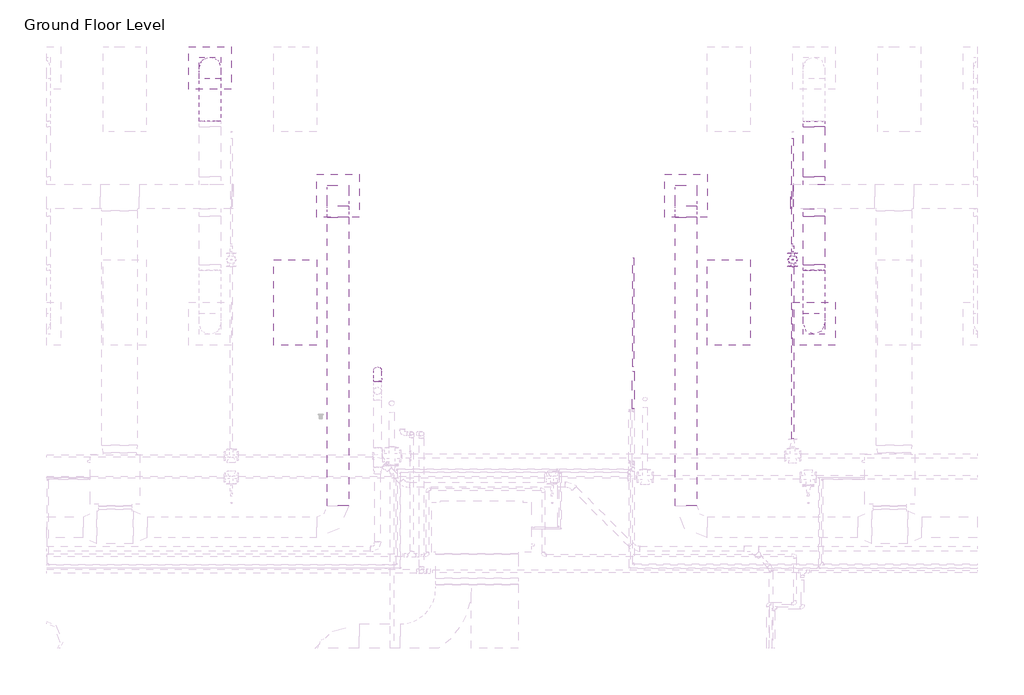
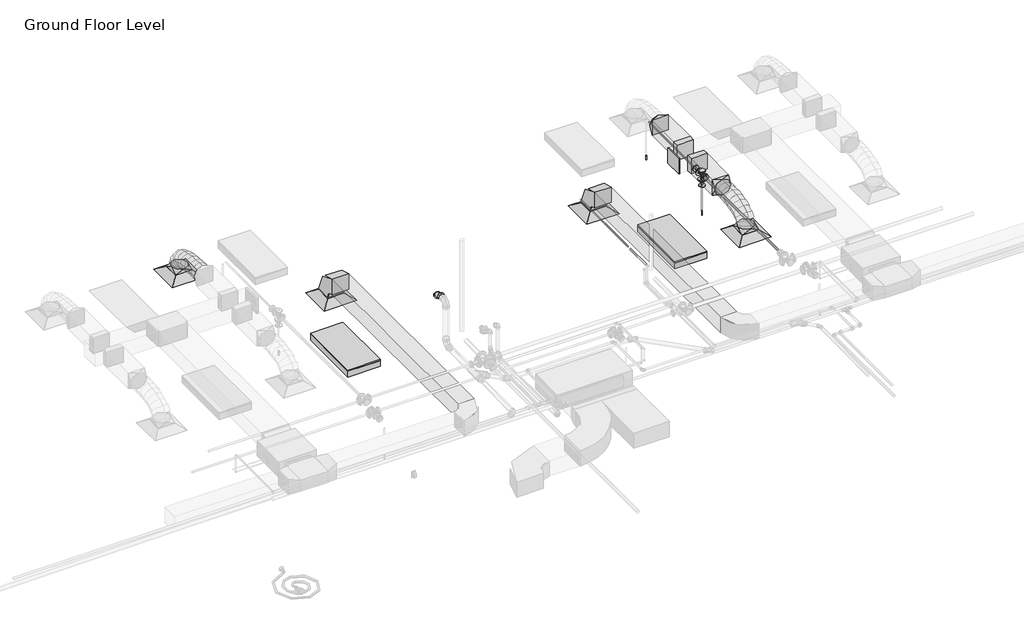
# One storey, part 58 of 74: 9 duct fittings, 8 duct segments, 6 pipe segments, 4 air terminals, 4 pipe fittings, 2 fire suppression terminals, 2 light fixtures.
"""IFC4 building model written with IfcOpenShell, lengths in millimetres."""

from ifc_helpers import new_model, si_unit, point, frame, frame_2d, origin, place, context, project, spatial, polyline, circle_curve, ellipse_curve, trimmed, segment, composite_curve, outline, extrude, transform, mapped, element, save
from ifc_brep_helpers import plane_surface, cylinder_surface, advanced_brep
from components import m_return_diffuser_600_x_600_face_300_x_300_connection_ff221211, m_rectangular_elbow_radius_1_w_618da153, m_rectangular_endcap_standard_eed78c44, m_rectangular_takeoff_standard_cb0ccb98, m_rectangular_takeoff_standard_2be5eba1, m_rectangular_to_round_transition_angle_45_degree_641efff0, m_sprinkler_dry_pendent_hosted_15_mm_dry_pendent_9bda8e11, m_troffer_light_parabolic_rectangular1_0600x1200mm_4_lamp_86473d4a, m_bend_pvc_sch_40_dwv_standard_97688ec5, m_reducer_flanged_cs_class_150_standard_d42b2106, m_tee_round_base_flanged_cs_class_150_standard_7e5987a1

model = new_model("IFC4")

# Units and contexts
model_context = context("Model", 3, world=origin())
ifc_project = project(units=[si_unit("LENGTHUNIT", "METRE", prefix="MILLI")], contexts=[model_context])

# Site, building, storey
site = spatial("IfcSite", under=ifc_project)
building = spatial("IfcBuilding", under=site)
storey = spatial("IfcBuildingStorey", under=building, Name="Ground Floor Level", Elevation=900.0)

# Air terminals
placement = place(None, origin())
m_return_diffuser_600_x_600_face_300_x_300_connection_shape = m_return_diffuser_600_x_600_face_300_x_300_connection_ff221211(model_context)
element("IfcAirTerminal", 1, ObjectType="M_Return Diffuser : 600 x 600 Face 300 x 300 Connection", at=placement, inside=storey, context=model_context, shape_type="MappedRepresentation", body=[
    mapped(m_return_diffuser_600_x_600_face_300_x_300_connection_shape, transform((-6737.2327605, 18735.2153534, 3650.0), x_axis=(1.0, 0.0, 0.0), y_axis=(0.0, 1.0, 0.0), z_axis=(0.0, 0.0, 1.0))),
])
element("IfcAirTerminal", 2, ObjectType="M_Return Diffuser : 600 x 600 Face 300 x 300 Connection", at=placement, inside=storey, context=model_context, shape_type="MappedRepresentation", body=[
    mapped(m_return_diffuser_600_x_600_face_300_x_300_connection_shape, transform((-1837.2327605, 18735.2153534, 3650.0), x_axis=(1.0, 0.0, 0.0), y_axis=(0.0, 1.0, 0.0), z_axis=(0.0, 0.0, 1.0))),
])
element("IfcAirTerminal", 3, ObjectType="M_Supply Diffuser : 600 x 600 Face 300 x 300 Connection", at=placement, inside=storey, context=model_context, shape_type="MappedRepresentation", body=[
    mapped(m_return_diffuser_600_x_600_face_300_x_300_connection_shape, transform((-8537.2327605, 20535.2153534, 3650.0), x_axis=(1.0, 0.0, 0.0), y_axis=(0.0, 1.0, 0.0), z_axis=(0.0, 0.0, 1.0))),
])
element("IfcAirTerminal", 4, ObjectType="M_Supply Diffuser : 600 x 600 Face 300 x 300 Connection", at=placement, inside=storey, context=model_context, shape_type="MappedRepresentation", body=[
    mapped(m_return_diffuser_600_x_600_face_300_x_300_connection_shape, transform((-37.2327605, 16935.2153534, 3650.0), x_axis=(1.0, 0.0, 0.0), y_axis=(0.0, 1.0, 0.0), z_axis=(0.0, 0.0, 1.0))),
])

# Duct fittings
m_rectangular_elbow_radius_1_w_shape = m_rectangular_elbow_radius_1_w_618da153(model_context)
element("IfcDuctFitting", 5, ObjectType="M_Rectangular Elbow - Radius : 1 W", at=placement, inside=storey, context=model_context, shape_type="MappedRepresentation", body=[
    mapped(m_rectangular_elbow_radius_1_w_shape, transform((-6737.2327605, 18735.2153534, 4075.2872564), x_axis=(0.0, 0.0, 1.0), y_axis=(0.0, -1.0, 0.0), z_axis=(1.0, 0.0, 0.0))),
])
element("IfcDuctFitting", 6, ObjectType="M_Rectangular Elbow - Radius : 1 W", at=placement, inside=storey, context=model_context, shape_type="MappedRepresentation", body=[
    mapped(m_rectangular_elbow_radius_1_w_shape, transform((-1837.2327605, 18735.2153534, 4075.2872564), x_axis=(0.0, 0.0, 1.0), y_axis=(0.0, -1.0, 0.0), z_axis=(1.0, 0.0, 0.0))),
])
m_rectangular_endcap_standard_shape = m_rectangular_endcap_standard_eed78c44(model_context)
element("IfcDuctFitting", 7, ObjectType="M_Rectangular Endcap : Standard", at=placement, inside=storey, context=model_context, shape_type="MappedRepresentation", body=[
    mapped(m_rectangular_endcap_standard_shape, transform((-337.2326293, 18724.6783949, 4099.9983101), x_axis=(-0.9999999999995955, 0.0, -8.994654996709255e-07), y_axis=(0.0, -1.0000000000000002, 0.0), z_axis=(-8.994654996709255e-07, 0.0, 0.9999999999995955))),
])
m_rectangular_takeoff_standard_shape = m_rectangular_takeoff_standard_cb0ccb98(model_context)
element("IfcDuctFitting", 8, ObjectType="M_Rectangular Takeoff : Standard", at=placement, inside=storey, context=model_context, shape_type="MappedRepresentation", body=[
    mapped(m_rectangular_takeoff_standard_shape, transform((-37.2327605, 18549.6783949, 4099.9985799), x_axis=(0.0, -1.0, 0.0), y_axis=(-1.0, 0.0, 0.0), z_axis=(0.0, 0.0, -1.0))),
])
m_rectangular_takeoff_standard_2_shape = m_rectangular_takeoff_standard_2be5eba1(model_context)
element("IfcDuctFitting", 9, ObjectType="M_Rectangular Takeoff : Standard", at=placement, inside=storey, context=model_context, shape_type="MappedRepresentation", body=[
    mapped(m_rectangular_takeoff_standard_2_shape, transform((-37.2327605, 18899.6783949, 4099.9985799), x_axis=(0.0, 1.0, 0.0), y_axis=(1.0, 0.0, 0.0), z_axis=(0.0, 0.0, -1.0))),
])
m_rectangular_to_round_transition_angle_45_degree_shape = m_rectangular_to_round_transition_angle_45_degree_641efff0(model_context)
element("IfcDuctFitting", 10, ObjectType="M_Rectangular to Round Transition - Angle : 45 Degree", at=placement, inside=storey, context=model_context, shape_type="MappedRepresentation", body=[
    mapped(m_rectangular_to_round_transition_angle_45_degree_shape, transform((-8537.2327605, 20535.2153534, 3751.6), x_axis=(0.0, 0.0, 1.0), y_axis=(-1.0, 0.0, 0.0), z_axis=(0.0, -1.0, 0.0))),
])
element("IfcDuctFitting", 11, ObjectType="M_Rectangular to Round Transition - Angle : 45 Degree", at=placement, inside=storey, context=model_context, shape_type="MappedRepresentation", body=[
    mapped(m_rectangular_to_round_transition_angle_45_degree_shape, transform((-37.2327605, 19707.878002, 4099.9985799), x_axis=(0.0, 1.0, 0.0), y_axis=(-1.0, 0.0, 0.0), z_axis=(0.0, 0.0, 1.0))),
])
element("IfcDuctFitting", 12, ObjectType="M_Rectangular to Round Transition - Angle : 45 Degree", at=placement, inside=storey, context=model_context, shape_type="MappedRepresentation", body=[
    mapped(m_rectangular_to_round_transition_angle_45_degree_shape, transform((-37.2327605, 16935.2153534, 3751.6), x_axis=(0.0, 0.0, 1.0), y_axis=(-1.0, 0.0, 0.0), z_axis=(0.0, -1.0, 0.0))),
])
element("IfcDuctFitting", 13, ObjectType="M_Rectangular to Round Transition - Angle : 45 Degree", at=placement, inside=storey, context=model_context, shape_type="MappedRepresentation", body=[
    mapped(m_rectangular_to_round_transition_angle_45_degree_shape, transform((-37.2327605, 17762.5527048, 4099.9985799), x_axis=(0.0, -1.0, 0.0), y_axis=(1.0, 0.0, 0.0), z_axis=(0.0, 0.0, 1.0))),
])

# Duct segments
element("IfcDuctSegment", 14, ObjectType="Flex - Round", at=placement, inside=storey, context=model_context, shape_type="AdvancedBrep", body=[
    advanced_brep(
    [(-8387.2327605, 20535.2153534, 3826.6), (-8537.2327605, 20385.2153534, 3826.6), (-8687.2327605, 20535.2153534, 3826.6), (-8537.2327605, 20685.2153534, 3826.6), (-8387.2327605, 20535.2153534, 3857.937778), (-8537.2327605, 20385.2153534, 3832.2944744), (-8687.2327605, 20535.2153534, 3857.937778), (-8537.2327605, 20685.2153534, 3883.5810816), (-8387.2327605, 20518.1993769, 3906.2506017), (-8537.2327605, 20384.4614978, 3834.4348684), (-8687.2327605, 20518.1993769, 3906.2506017), (-8537.2327605, 20651.937256, 3978.0663351), (-8387.2327605, 20471.0153769, 3968.7112406), (-8537.2327605, 20366.8097489, 3857.8016772), (-8687.2327605, 20471.0153769, 3968.7112406), (-8537.2327605, 20575.2210049, 4079.6208039), (-8387.2327605, 20399.4592477, 4016.0697935), (-8537.2327605, 20330.5256195, 3881.8158865), (-8687.2327605, 20399.4592477, 4016.0697935), (-8537.2327605, 20468.3928758, 4150.3237004), (-8387.2327605, 20309.3268835, 4050.4141374), (-8537.2327605, 20265.7665876, 3906.4918893), (-8687.2327605, 20309.3268835, 4050.4141374), (-8537.2327605, 20352.8871794, 4194.3363855), (-8387.2327605, 20206.4141786, 4073.8321493), (-8537.2327605, 20179.8536975, 3926.0415559), (-8687.2327605, 20206.4141786, 4073.8321493), (-8537.2327605, 20232.9746597, 4221.6227426), (-8387.2327605, 20096.5170273, 4088.411706), (-8537.2327605, 20081.3665099, 3939.1074046), (-8687.2327605, 20096.5170273, 4088.411706), (-8537.2327605, 20111.6675446, 4237.7160075), (-8387.2327605, 19985.4313238, 4096.2406846), (-8537.2327605, 19977.9262951, 3946.3975526), (-8687.2327605, 19985.4313238, 4096.2406846), (-8537.2327605, 19992.9363525, 4246.0838166), (-8387.2327605, 19878.9529624, 4099.406962), (-8537.2327605, 19876.2616453, 3949.4206879), (-8687.2327605, 19878.9529624, 4099.406962), (-8537.2327605, 19881.6442795, 4249.3932362), (-8387.2327605, 19782.8778373, 4099.9984152), (-8537.2327605, 19783.8012427, 4249.9955729), (-8687.2327605, 19782.8778373, 4099.9984152), (-8537.2327605, 19781.9544319, 3950.0012575)],
    [
        (0, 1, circle_curve(frame((-8537.2327605, 20535.2153534, 3826.6), z_axis=(0.0, 0.0, -1.0), x_axis=(1.0, 0.0, 0.0)), 150.0)),
        (1, 2, circle_curve(frame((-8537.2327605, 20535.2153534, 3826.6), z_axis=(0.0, 0.0, -1.0), x_axis=(1.0, 0.0, 0.0)), 150.0)),
        (2, 3, circle_curve(frame((-8537.2327605, 20535.2153534, 3826.6), z_axis=(0.0, 0.0, -1.0), x_axis=(1.0, 0.0, 0.0)), 150.0)),
        (3, 0, circle_curve(frame((-8537.2327605, 20535.2153534, 3826.6), z_axis=(0.0, 0.0, -1.0), x_axis=(1.0, 0.0, 0.0)), 150.0)),
        (0, 4),
        (4, 5, ellipse_curve(frame((-8537.2327605, 20535.2153534, 3857.937778), z_axis=(0.0, 0.16851066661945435, -0.985699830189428), x_axis=(0.0, -0.985699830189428, -0.16851066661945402)), 152.1761447, 150.0)),
        (5, 1),
        (5, 6, ellipse_curve(frame((-8537.2327605, 20535.2153534, 3857.937778), z_axis=(0.0, 0.16851066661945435, -0.985699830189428), x_axis=(0.0, -0.985699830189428, -0.16851066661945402)), 152.1761447, 150.0)),
        (6, 2),
        (6, 7, ellipse_curve(frame((-8537.2327605, 20535.2153534, 3857.937778), z_axis=(0.0, 0.16851066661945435, -0.985699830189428), x_axis=(0.0, -0.985699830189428, -0.16851066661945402)), 152.1761447, 150.0)),
        (7, 3),
        (7, 4, ellipse_curve(frame((-8537.2327605, 20535.2153534, 3857.937778), z_axis=(0.0, 0.16851066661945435, -0.985699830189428), x_axis=(0.0, -0.985699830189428, -0.16851066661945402)), 152.1761447, 150.0)),
        (4, 8),
        (8, 9, ellipse_curve(frame((-8537.2327605, 20518.1993769, 3906.2506017), z_axis=(0.0, 0.4730936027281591, -0.8810121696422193), x_axis=(0.0, -0.8810121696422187, -0.4730936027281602)), 151.8002631, 150.0)),
        (9, 5),
        (9, 10, ellipse_curve(frame((-8537.2327605, 20518.1993769, 3906.2506017), z_axis=(0.0, 0.4730936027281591, -0.8810121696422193), x_axis=(0.0, -0.8810121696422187, -0.4730936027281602)), 151.8002631, 150.0)),
        (10, 6),
        (10, 11, ellipse_curve(frame((-8537.2327605, 20518.1993769, 3906.2506017), z_axis=(0.0, 0.4730936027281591, -0.8810121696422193), x_axis=(0.0, -0.8810121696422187, -0.4730936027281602)), 151.8002631, 150.0)),
        (11, 7),
        (11, 8, ellipse_curve(frame((-8537.2327605, 20518.1993769, 3906.2506017), z_axis=(0.0, 0.4730936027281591, -0.8810121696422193), x_axis=(0.0, -0.8810121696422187, -0.4730936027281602)), 151.8002631, 150.0)),
        (8, 12),
        (12, 13, ellipse_curve(frame((-8537.2327605, 20471.0153769, 3968.7112406), z_axis=(0.0, 0.7287895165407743, -0.6847377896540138), x_axis=(0.0, -0.6847377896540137, -0.7287895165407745)), 152.1832584, 150.0)),
        (13, 9),
        (13, 14, ellipse_curve(frame((-8537.2327605, 20471.0153769, 3968.7112406), z_axis=(0.0, 0.7287895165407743, -0.6847377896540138), x_axis=(0.0, -0.6847377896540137, -0.7287895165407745)), 152.1832584, 150.0)),
        (14, 10),
        (14, 15, ellipse_curve(frame((-8537.2327605, 20471.0153769, 3968.7112406), z_axis=(0.0, 0.7287895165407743, -0.6847377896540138), x_axis=(0.0, -0.6847377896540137, -0.7287895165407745)), 152.1832584, 150.0)),
        (15, 11),
        (15, 12, ellipse_curve(frame((-8537.2327605, 20471.0153769, 3968.7112406), z_axis=(0.0, 0.7287895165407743, -0.6847377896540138), x_axis=(0.0, -0.6847377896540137, -0.7287895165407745)), 152.1832584, 150.0)),
        (12, 16),
        (16, 17, ellipse_curve(frame((-8537.2327605, 20399.4592477, 4016.0697935), z_axis=(0.0, 0.8895873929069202, -0.4567650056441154), x_axis=(0.0, -0.4567650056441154, -0.8895873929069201)), 150.9170521, 150.0)),
        (17, 13),
        (17, 18, ellipse_curve(frame((-8537.2327605, 20399.4592477, 4016.0697935), z_axis=(0.0, 0.8895873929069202, -0.4567650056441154), x_axis=(0.0, -0.4567650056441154, -0.8895873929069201)), 150.9170521, 150.0)),
        (18, 14),
        (18, 19, ellipse_curve(frame((-8537.2327605, 20399.4592477, 4016.0697935), z_axis=(0.0, 0.8895873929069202, -0.4567650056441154), x_axis=(0.0, -0.4567650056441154, -0.8895873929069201)), 150.9170521, 150.0)),
        (19, 15),
        (19, 16, ellipse_curve(frame((-8537.2327605, 20399.4592477, 4016.0697935), z_axis=(0.0, 0.8895873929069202, -0.4567650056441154), x_axis=(0.0, -0.4567650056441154, -0.8895873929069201)), 150.9170521, 150.0)),
        (16, 20),
        (20, 21, ellipse_curve(frame((-8537.2327605, 20309.3268835, 4050.4141374), z_axis=(0.0, 0.9571212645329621, -0.2896875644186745), x_axis=(0.0, -0.28968756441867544, -0.9571212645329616)), 150.3699202, 150.0)),
        (21, 17),
        (21, 22, ellipse_curve(frame((-8537.2327605, 20309.3268835, 4050.4141374), z_axis=(0.0, 0.9571212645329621, -0.2896875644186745), x_axis=(0.0, -0.28968756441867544, -0.9571212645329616)), 150.3699202, 150.0)),
        (22, 18),
        (22, 23, ellipse_curve(frame((-8537.2327605, 20309.3268835, 4050.4141374), z_axis=(0.0, 0.9571212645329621, -0.2896875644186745), x_axis=(0.0, -0.28968756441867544, -0.9571212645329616)), 150.3699202, 150.0)),
        (23, 19),
        (23, 20, ellipse_curve(frame((-8537.2327605, 20309.3268835, 4050.4141374), z_axis=(0.0, 0.9571212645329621, -0.2896875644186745), x_axis=(0.0, -0.28968756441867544, -0.9571212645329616)), 150.3699202, 150.0)),
        (20, 24),
        (24, 25, ellipse_curve(frame((-8537.2327605, 20206.4141786, 4073.8321493), z_axis=(0.0, 0.9842318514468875, -0.17688318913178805), x_axis=(0.0, -0.17688318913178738, -0.9842318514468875)), 150.1583119, 150.0)),
        (25, 21),
        (25, 26, ellipse_curve(frame((-8537.2327605, 20206.4141786, 4073.8321493), z_axis=(0.0, 0.9842318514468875, -0.17688318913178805), x_axis=(0.0, -0.17688318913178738, -0.9842318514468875)), 150.1583119, 150.0)),
        (26, 22),
        (26, 27, ellipse_curve(frame((-8537.2327605, 20206.4141786, 4073.8321493), z_axis=(0.0, 0.9842318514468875, -0.17688318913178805), x_axis=(0.0, -0.17688318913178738, -0.9842318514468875)), 150.1583119, 150.0)),
        (27, 23),
        (27, 24, ellipse_curve(frame((-8537.2327605, 20206.4141786, 4073.8321493), z_axis=(0.0, 0.9842318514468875, -0.17688318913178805), x_axis=(0.0, -0.17688318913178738, -0.9842318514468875)), 150.1583119, 150.0)),
        (24, 28),
        (28, 29, ellipse_curve(frame((-8537.2327605, 20096.5170273, 4088.411706), z_axis=(0.0, 0.9948909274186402, -0.10095564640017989), x_axis=(0.0, -0.10095564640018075, -0.99489092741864)), 150.0710252, 150.0)),
        (29, 25),
        (29, 30, ellipse_curve(frame((-8537.2327605, 20096.5170273, 4088.411706), z_axis=(0.0, 0.9948909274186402, -0.10095564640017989), x_axis=(0.0, -0.10095564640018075, -0.99489092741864)), 150.0710252, 150.0)),
        (30, 26),
        (30, 31, ellipse_curve(frame((-8537.2327605, 20096.5170273, 4088.411706), z_axis=(0.0, 0.9948909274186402, -0.10095564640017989), x_axis=(0.0, -0.10095564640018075, -0.99489092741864)), 150.0710252, 150.0)),
        (31, 27),
        (31, 28, ellipse_curve(frame((-8537.2327605, 20096.5170273, 4088.411706), z_axis=(0.0, 0.9948909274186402, -0.10095564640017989), x_axis=(0.0, -0.10095564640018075, -0.99489092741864)), 150.0710252, 150.0)),
        (28, 32),
        (32, 33, ellipse_curve(frame((-8537.2327605, 19985.4313238, 4096.2406846), z_axis=(0.0, 0.9987480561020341, -0.05002319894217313), x_axis=(0.0, -0.050023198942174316, -0.9987480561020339)), 150.0309623, 150.0)),
        (33, 29),
        (33, 34, ellipse_curve(frame((-8537.2327605, 19985.4313238, 4096.2406846), z_axis=(0.0, 0.9987480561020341, -0.05002319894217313), x_axis=(0.0, -0.050023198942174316, -0.9987480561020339)), 150.0309623, 150.0)),
        (34, 30),
        (34, 35, ellipse_curve(frame((-8537.2327605, 19985.4313238, 4096.2406846), z_axis=(0.0, 0.9987480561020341, -0.05002319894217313), x_axis=(0.0, -0.050023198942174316, -0.9987480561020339)), 150.0309623, 150.0)),
        (35, 31),
        (35, 32, ellipse_curve(frame((-8537.2327605, 19985.4313238, 4096.2406846), z_axis=(0.0, 0.9987480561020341, -0.05002319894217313), x_axis=(0.0, -0.050023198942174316, -0.9987480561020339)), 150.0309623, 150.0)),
        (32, 36),
        (36, 37, ellipse_curve(frame((-8537.2327605, 19878.9529624, 4099.406962), z_axis=(0.0, 0.99983904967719, -0.017940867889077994), x_axis=(0.0, -0.017940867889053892, -0.9998390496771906)), 150.0104184, 150.0)),
        (37, 33),
        (37, 38, ellipse_curve(frame((-8537.2327605, 19878.9529624, 4099.406962), z_axis=(0.0, 0.99983904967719, -0.017940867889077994), x_axis=(0.0, -0.017940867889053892, -0.9998390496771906)), 150.0104184, 150.0)),
        (38, 34),
        (38, 39, ellipse_curve(frame((-8537.2327605, 19878.9529624, 4099.406962), z_axis=(0.0, 0.99983904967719, -0.017940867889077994), x_axis=(0.0, -0.017940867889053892, -0.9998390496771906)), 150.0104184, 150.0)),
        (39, 35),
        (39, 36, ellipse_curve(frame((-8537.2327605, 19878.9529624, 4099.406962), z_axis=(0.0, 0.99983904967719, -0.017940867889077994), x_axis=(0.0, -0.017940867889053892, -0.9998390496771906)), 150.0104184, 150.0)),
        (40, 41, circle_curve(frame((-8537.2327605, 19782.8778373, 4099.9984152), z_axis=(0.0, -0.9999810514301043, 0.006156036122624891), x_axis=(1.0, 0.0, 0.0)), 150.0)),
        (41, 42, circle_curve(frame((-8537.2327605, 19782.8778373, 4099.9984152), z_axis=(0.0, -0.9999810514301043, 0.006156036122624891), x_axis=(1.0, 0.0, 0.0)), 150.0)),
        (42, 43, circle_curve(frame((-8537.2327605, 19782.8778373, 4099.9984152), z_axis=(0.0, -0.9999810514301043, 0.006156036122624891), x_axis=(1.0, 0.0, 0.0)), 150.0)),
        (43, 40, circle_curve(frame((-8537.2327605, 19782.8778373, 4099.9984152), z_axis=(0.0, -0.9999810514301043, 0.006156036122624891), x_axis=(1.0, 0.0, 0.0)), 150.0)),
        (36, 40),
        (43, 37),
        (42, 38),
        (41, 39),
    ],
    [
        plane_surface(frame((-8537.2327605, 20385.2153534, 3826.6), z_axis=(0.0, 0.0, -1.0), x_axis=(1.0, 0.0, 0.0))),
        cylinder_surface(frame((-8537.2327605, 20535.2153534, 3826.6), z_axis=(0.0, 0.0, -1.0), x_axis=(1.0, 0.0, 0.0)), 150.0),
        cylinder_surface(frame((-8537.2327605, 20535.2153534, 3857.937778), z_axis=(0.0, 0.3322018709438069, -0.9432083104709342), x_axis=(1.0, 0.0, 0.0)), 150.0),
        cylinder_surface(frame((-8537.2327605, 20518.1993769, 3906.2506017), z_axis=(0.0, 0.6027641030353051, -0.7979194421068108), x_axis=(1.0, 0.0, 0.0)), 150.0),
        cylinder_surface(frame((-8537.2327605, 20471.0153769, 3968.7112406), z_axis=(0.0, 0.8339041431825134, -0.5519093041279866), x_axis=(1.0, 0.0, 0.0)), 150.0),
        cylinder_surface(frame((-8537.2327605, 20399.4592477, 4016.0697935), z_axis=(0.0, 0.9344594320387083, -0.3560696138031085), x_axis=(1.0, 0.0, 0.0)), 150.0),
        cylinder_surface(frame((-8537.2327605, 20309.3268835, 4050.4141374), z_axis=(0.0, 0.9750739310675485, -0.22188021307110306), x_axis=(1.0, 0.0, 0.0)), 150.0),
        cylinder_surface(frame((-8537.2327605, 20206.4141786, 4073.8321493), z_axis=(0.0, 0.9913144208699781, -0.13151318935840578), x_axis=(1.0, 0.0, 0.0)), 150.0),
        cylinder_surface(frame((-8537.2327605, 20096.5170273, 4088.411706), z_axis=(0.0, 0.9975257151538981, -0.07030254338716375), x_axis=(1.0, 0.0, 0.0)), 150.0),
        cylinder_surface(frame((-8537.2327605, 19985.4313238, 4096.2406846), z_axis=(0.0, 0.9995581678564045, -0.029723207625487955), x_axis=(1.0, 0.0, 0.0)), 150.0),
        plane_surface(frame((-8537.2327605, 19781.9544319, 3950.0012575), z_axis=(0.0, -0.9999810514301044, 0.006156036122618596), x_axis=(1.0, 0.0, 0.0))),
        cylinder_surface(frame((-8537.2327605, 19878.9529624, 4099.406962), z_axis=(0.0, 0.9999810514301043, -0.006156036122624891), x_axis=(1.0, 0.0, 0.0)), 150.0),
    ],
    [
        (0, [[1, 2, 3, 4]]),
        (1, [[-1, 5, 6, 7]]),
        (1, [[-2, -7, 8, 9]]),
        (1, [[-3, -9, 10, 11]]),
        (1, [[-4, -11, 12, -5]]),
        (2, [[-6, 13, 14, 15]]),
        (2, [[-8, -15, 16, 17]]),
        (2, [[-10, -17, 18, 19]]),
        (2, [[-12, -19, 20, -13]]),
        (3, [[-14, 21, 22, 23]]),
        (3, [[-16, -23, 24, 25]]),
        (3, [[-18, -25, 26, 27]]),
        (3, [[-20, -27, 28, -21]]),
        (4, [[-22, 29, 30, 31]]),
        (4, [[-24, -31, 32, 33]]),
        (4, [[-26, -33, 34, 35]]),
        (4, [[-28, -35, 36, -29]]),
        (5, [[-30, 37, 38, 39]]),
        (5, [[-32, -39, 40, 41]]),
        (5, [[-34, -41, 42, 43]]),
        (5, [[-36, -43, 44, -37]]),
        (6, [[-38, 45, 46, 47]]),
        (6, [[-40, -47, 48, 49]]),
        (6, [[-42, -49, 50, 51]]),
        (6, [[-44, -51, 52, -45]]),
        (7, [[-46, 53, 54, 55]]),
        (7, [[-48, -55, 56, 57]]),
        (7, [[-50, -57, 58, 59]]),
        (7, [[-52, -59, 60, -53]]),
        (8, [[-54, 61, 62, 63]]),
        (8, [[-56, -63, 64, 65]]),
        (8, [[-58, -65, 66, 67]]),
        (8, [[-60, -67, 68, -61]]),
        (9, [[-62, 69, 70, 71]]),
        (9, [[-64, -71, 72, 73]]),
        (9, [[-66, -73, 74, 75]]),
        (9, [[-68, -75, 76, -69]]),
        (10, [[77, 78, 79, 80]]),
        (11, [[-70, 81, -80, 82]]),
        (11, [[-72, -82, -79, 83]]),
        (11, [[-74, -83, -78, 84]]),
        (11, [[-76, -84, -77, -81]]),
    ],
),
])
element("IfcDuctSegment", 15, ObjectType="Flex - Round", at=placement, inside=storey, context=model_context, shape_type="AdvancedBrep", body=[
    advanced_brep(
    [(112.7672395, 16935.2153534, 3826.6), (-37.2327605, 16785.2153534, 3826.6), (-187.2327605, 16935.2153534, 3826.6), (-37.2327605, 17085.2153534, 3826.6), (112.7672395, 16935.2153534, 3857.9377711), (-37.2327605, 16785.2153534, 3883.5810662), (-187.2327605, 16935.2153534, 3857.9377711), (-37.2327605, 17085.2153534, 3832.2944759), (112.7672395, 16952.2313253, 3906.2505987), (-37.2327605, 16818.4934358, 3978.0663103), (-187.2327605, 16952.2313253, 3906.2505987), (-37.2327605, 17085.9692148, 3834.4348871), (112.7672395, 16999.4153129, 3968.7112481), (-37.2327605, 16895.2096567, 4079.620783), (-187.2327605, 16999.4153129, 3968.7112481), (-37.2327605, 17103.620969, 3857.8017132), (112.7672395, 17070.9714237, 4016.0698216), (-37.2327605, 17002.0377511, 4150.3237055), (-187.2327605, 17070.9714237, 4016.0698216), (-37.2327605, 17139.9050963, 3881.8159377), (112.7672395, 17161.1037654, 4050.4141926), (-37.2327605, 17117.5434209, 4194.3364261), (-187.2327605, 17161.1037654, 4050.4141926), (-37.2327605, 17204.6641099, 3906.491959), (112.7672395, 17264.0164456, 4073.8322345), (-37.2327605, 17237.4559185, 4221.6228196), (-187.2327605, 17264.0164456, 4073.8322345), (-37.2327605, 17290.5769728, 3926.0416493), (112.7672395, 17373.9135721, 4088.4118207), (-37.2327605, 17358.7630147, 4237.7161183), (-187.2327605, 17373.9135721, 4088.4118207), (-37.2327605, 17389.0641294, 3939.1075232), (112.7672395, 17484.9992523, 4096.2408248), (-37.2327605, 17477.4941925, 4246.0839553), (-187.2327605, 17484.9992523, 4096.2408248), (-37.2327605, 17492.5043121, 3946.3976942), (112.7672395, 17591.477594, 4099.40712), (-37.2327605, 17588.7862586, 4249.393394), (-187.2327605, 17591.477594, 4099.40712), (-37.2327605, 17594.1689294, 3949.4208461), (112.7672395, 17687.5527048, 4099.9985799), (-37.2327605, 17688.4761208, 3950.0014223), (-187.2327605, 17687.5527048, 4099.9985799), (-37.2327605, 17686.6292887, 4249.9957376)],
    [
        (0, 1, circle_curve(frame((-37.2327605, 16935.2153534, 3826.6), z_axis=(0.0, 0.0, -1.0), x_axis=(1.0, 0.0, 0.0)), 150.0)),
        (1, 2, circle_curve(frame((-37.2327605, 16935.2153534, 3826.6), z_axis=(0.0, 0.0, -1.0), x_axis=(1.0, 0.0, 0.0)), 150.0)),
        (2, 3, circle_curve(frame((-37.2327605, 16935.2153534, 3826.6), z_axis=(0.0, 0.0, -1.0), x_axis=(1.0, 0.0, 0.0)), 150.0)),
        (3, 0, circle_curve(frame((-37.2327605, 16935.2153534, 3826.6), z_axis=(0.0, 0.0, -1.0), x_axis=(1.0, 0.0, 0.0)), 150.0)),
        (0, 4),
        (4, 5, ellipse_curve(frame((-37.2327605, 16935.2153534, 3857.9377711), z_axis=(0.0, -0.1685106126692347, -0.9856998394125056), x_axis=(0.0, 0.9856998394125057, -0.16851061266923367)), 152.1761433, 150.0)),
        (5, 1),
        (5, 6, ellipse_curve(frame((-37.2327605, 16935.2153534, 3857.9377711), z_axis=(0.0, -0.1685106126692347, -0.9856998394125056), x_axis=(0.0, 0.9856998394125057, -0.16851061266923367)), 152.1761433, 150.0)),
        (6, 2),
        (6, 7, ellipse_curve(frame((-37.2327605, 16935.2153534, 3857.9377711), z_axis=(0.0, -0.1685106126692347, -0.9856998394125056), x_axis=(0.0, 0.9856998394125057, -0.16851061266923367)), 152.1761433, 150.0)),
        (7, 3),
        (7, 4, ellipse_curve(frame((-37.2327605, 16935.2153534, 3857.9377711), z_axis=(0.0, -0.1685106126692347, -0.9856998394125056), x_axis=(0.0, 0.9856998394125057, -0.16851061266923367)), 152.1761433, 150.0)),
        (4, 8),
        (8, 9, ellipse_curve(frame((-37.2327605, 16952.2313253, 3906.2505987), z_axis=(0.0, -0.4730934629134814, -0.8810122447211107), x_axis=(0.0, 0.8810122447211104, -0.473093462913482)), 151.8002619, 150.0)),
        (9, 5),
        (9, 10, ellipse_curve(frame((-37.2327605, 16952.2313253, 3906.2505987), z_axis=(0.0, -0.4730934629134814, -0.8810122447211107), x_axis=(0.0, 0.8810122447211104, -0.473093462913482)), 151.8002619, 150.0)),
        (10, 6),
        (10, 11, ellipse_curve(frame((-37.2327605, 16952.2313253, 3906.2505987), z_axis=(0.0, -0.4730934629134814, -0.8810122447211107), x_axis=(0.0, 0.8810122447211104, -0.473093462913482)), 151.8002619, 150.0)),
        (11, 7),
        (11, 8, ellipse_curve(frame((-37.2327605, 16952.2313253, 3906.2505987), z_axis=(0.0, -0.4730934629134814, -0.8810122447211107), x_axis=(0.0, 0.8810122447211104, -0.473093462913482)), 151.8002619, 150.0)),
        (8, 12),
        (12, 13, ellipse_curve(frame((-37.2327605, 16999.4153129, 3968.7112481), z_axis=(0.0, -0.728789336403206, -0.6847379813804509), x_axis=(0.0, 0.6847379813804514, -0.7287893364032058)), 152.183257, 150.0)),
        (13, 9),
        (13, 14, ellipse_curve(frame((-37.2327605, 16999.4153129, 3968.7112481), z_axis=(0.0, -0.728789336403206, -0.6847379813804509), x_axis=(0.0, 0.6847379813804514, -0.7287893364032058)), 152.183257, 150.0)),
        (14, 10),
        (14, 15, ellipse_curve(frame((-37.2327605, 16999.4153129, 3968.7112481), z_axis=(0.0, -0.728789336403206, -0.6847379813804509), x_axis=(0.0, 0.6847379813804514, -0.7287893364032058)), 152.183257, 150.0)),
        (15, 11),
        (15, 12, ellipse_curve(frame((-37.2327605, 16999.4153129, 3968.7112481), z_axis=(0.0, -0.728789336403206, -0.6847379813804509), x_axis=(0.0, 0.6847379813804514, -0.7287893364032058)), 152.183257, 150.0)),
        (12, 16),
        (16, 17, ellipse_curve(frame((-37.2327605, 17070.9714237, 4016.0698216), z_axis=(0.0, -0.8895872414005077, -0.45676530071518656), x_axis=(0.0, 0.456765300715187, -0.8895872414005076)), 150.9170519, 150.0)),
        (17, 13),
        (17, 18, ellipse_curve(frame((-37.2327605, 17070.9714237, 4016.0698216), z_axis=(0.0, -0.8895872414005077, -0.45676530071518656), x_axis=(0.0, 0.456765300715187, -0.8895872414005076)), 150.9170519, 150.0)),
        (18, 14),
        (18, 19, ellipse_curve(frame((-37.2327605, 17070.9714237, 4016.0698216), z_axis=(0.0, -0.8895872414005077, -0.45676530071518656), x_axis=(0.0, 0.456765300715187, -0.8895872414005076)), 150.9170519, 150.0)),
        (19, 15),
        (19, 16, ellipse_curve(frame((-37.2327605, 17070.9714237, 4016.0698216), z_axis=(0.0, -0.8895872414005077, -0.45676530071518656), x_axis=(0.0, 0.456765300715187, -0.8895872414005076)), 150.9170519, 150.0)),
        (16, 20),
        (20, 21, ellipse_curve(frame((-37.2327605, 17161.1037654, 4050.4141926), z_axis=(0.0, -0.9571211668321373, -0.2896878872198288), x_axis=(0.0, 0.28968788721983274, -0.9571211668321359)), 150.3699202, 150.0)),
        (21, 17),
        (21, 22, ellipse_curve(frame((-37.2327605, 17161.1037654, 4050.4141926), z_axis=(0.0, -0.9571211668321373, -0.2896878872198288), x_axis=(0.0, 0.28968788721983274, -0.9571211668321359)), 150.3699202, 150.0)),
        (22, 18),
        (22, 23, ellipse_curve(frame((-37.2327605, 17161.1037654, 4050.4141926), z_axis=(0.0, -0.9571211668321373, -0.2896878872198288), x_axis=(0.0, 0.28968788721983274, -0.9571211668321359)), 150.3699202, 150.0)),
        (23, 19),
        (23, 20, ellipse_curve(frame((-37.2327605, 17161.1037654, 4050.4141926), z_axis=(0.0, -0.9571211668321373, -0.2896878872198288), x_axis=(0.0, 0.28968788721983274, -0.9571211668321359)), 150.3699202, 150.0)),
        (20, 24),
        (24, 25, ellipse_curve(frame((-37.2327605, 17264.0164456, 4073.8322345), z_axis=(0.0, -0.9842317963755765, -0.17688349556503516), x_axis=(0.0, 0.1768834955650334, -0.9842317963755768)), 150.158312, 150.0)),
        (25, 21),
        (25, 26, ellipse_curve(frame((-37.2327605, 17264.0164456, 4073.8322345), z_axis=(0.0, -0.9842317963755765, -0.17688349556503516), x_axis=(0.0, 0.1768834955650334, -0.9842317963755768)), 150.158312, 150.0)),
        (26, 22),
        (26, 27, ellipse_curve(frame((-37.2327605, 17264.0164456, 4073.8322345), z_axis=(0.0, -0.9842317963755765, -0.17688349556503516), x_axis=(0.0, 0.1768834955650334, -0.9842317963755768)), 150.158312, 150.0)),
        (27, 23),
        (27, 24, ellipse_curve(frame((-37.2327605, 17264.0164456, 4073.8322345), z_axis=(0.0, -0.9842317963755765, -0.17688349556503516), x_axis=(0.0, 0.1768834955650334, -0.9842317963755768)), 150.158312, 150.0)),
        (24, 28),
        (28, 29, ellipse_curve(frame((-37.2327605, 17373.9135721, 4088.4118207), z_axis=(0.0, -0.9948909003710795, -0.10095591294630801), x_axis=(0.0, 0.10095591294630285, -0.9948909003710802)), 150.0710253, 150.0)),
        (29, 25),
        (29, 30, ellipse_curve(frame((-37.2327605, 17373.9135721, 4088.4118207), z_axis=(0.0, -0.9948909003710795, -0.10095591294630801), x_axis=(0.0, 0.10095591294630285, -0.9948909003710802)), 150.0710253, 150.0)),
        (30, 26),
        (30, 31, ellipse_curve(frame((-37.2327605, 17373.9135721, 4088.4118207), z_axis=(0.0, -0.9948909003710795, -0.10095591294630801), x_axis=(0.0, 0.10095591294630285, -0.9948909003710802)), 150.0710253, 150.0)),
        (31, 27),
        (31, 28, ellipse_curve(frame((-37.2327605, 17373.9135721, 4088.4118207), z_axis=(0.0, -0.9948909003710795, -0.10095591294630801), x_axis=(0.0, 0.10095591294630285, -0.9948909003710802)), 150.0710253, 150.0)),
        (28, 32),
        (32, 33, ellipse_curve(frame((-37.2327605, 17484.9992523, 4096.2408248), z_axis=(0.0, -0.998748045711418, -0.05002340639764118), x_axis=(0.0, 0.050023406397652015, -0.9987480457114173)), 150.0309624, 150.0)),
        (33, 29),
        (33, 34, ellipse_curve(frame((-37.2327605, 17484.9992523, 4096.2408248), z_axis=(0.0, -0.998748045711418, -0.05002340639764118), x_axis=(0.0, 0.050023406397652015, -0.9987480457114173)), 150.0309624, 150.0)),
        (34, 30),
        (34, 35, ellipse_curve(frame((-37.2327605, 17484.9992523, 4096.2408248), z_axis=(0.0, -0.998748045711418, -0.05002340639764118), x_axis=(0.0, 0.050023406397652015, -0.9987480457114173)), 150.0309624, 150.0)),
        (35, 31),
        (35, 32, ellipse_curve(frame((-37.2327605, 17484.9992523, 4096.2408248), z_axis=(0.0, -0.998748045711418, -0.05002340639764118), x_axis=(0.0, 0.050023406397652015, -0.9987480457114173)), 150.0309624, 150.0)),
        (32, 36),
        (36, 37, ellipse_curve(frame((-37.2327605, 17591.477594, 4099.40712), z_axis=(0.0, -0.9998390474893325, -0.017940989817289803), x_axis=(0.0, 0.017940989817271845, -0.9998390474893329)), 150.0104185, 150.0)),
        (37, 33),
        (37, 38, ellipse_curve(frame((-37.2327605, 17591.477594, 4099.40712), z_axis=(0.0, -0.9998390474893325, -0.017940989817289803), x_axis=(0.0, 0.017940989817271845, -0.9998390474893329)), 150.0104185, 150.0)),
        (38, 34),
        (38, 39, ellipse_curve(frame((-37.2327605, 17591.477594, 4099.40712), z_axis=(0.0, -0.9998390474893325, -0.017940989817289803), x_axis=(0.0, 0.017940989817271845, -0.9998390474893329)), 150.0104185, 150.0)),
        (39, 35),
        (39, 36, ellipse_curve(frame((-37.2327605, 17591.477594, 4099.40712), z_axis=(0.0, -0.9998390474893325, -0.017940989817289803), x_axis=(0.0, 0.017940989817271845, -0.9998390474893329)), 150.0104185, 150.0)),
        (40, 41, circle_curve(frame((-37.2327605, 17687.5527048, 4099.9985799), z_axis=(0.0, 0.9999810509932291, 0.006156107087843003), x_axis=(1.0, 0.0, 0.0)), 150.0)),
        (41, 42, circle_curve(frame((-37.2327605, 17687.5527048, 4099.9985799), z_axis=(0.0, 0.9999810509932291, 0.006156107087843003), x_axis=(1.0, 0.0, 0.0)), 150.0)),
        (42, 43, circle_curve(frame((-37.2327605, 17687.5527048, 4099.9985799), z_axis=(0.0, 0.9999810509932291, 0.006156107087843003), x_axis=(1.0, 0.0, 0.0)), 150.0)),
        (43, 40, circle_curve(frame((-37.2327605, 17687.5527048, 4099.9985799), z_axis=(0.0, 0.9999810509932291, 0.006156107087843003), x_axis=(1.0, 0.0, 0.0)), 150.0)),
        (36, 40),
        (43, 37),
        (42, 38),
        (41, 39),
    ],
    [
        plane_surface(frame((-37.2327605, 16785.2153534, 3826.6), z_axis=(0.0, 0.0, -1.0), x_axis=(1.0, 0.0, 0.0))),
        cylinder_surface(frame((-37.2327605, 16935.2153534, 3826.6), z_axis=(0.0, 0.0, -1.0), x_axis=(1.0, 0.0, 0.0)), 150.0),
        cylinder_surface(frame((-37.2327605, 16935.2153534, 3857.9377711), z_axis=(0.0, -0.3322017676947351, -0.9432083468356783), x_axis=(1.0, 0.0, 0.0)), 150.0),
        cylinder_surface(frame((-37.2327605, 16952.2313253, 3906.2505987), z_axis=(0.0, -0.6027639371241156, -0.7979195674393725), x_axis=(1.0, 0.0, 0.0)), 150.0),
        cylinder_surface(frame((-37.2327605, 16999.4153129, 3968.7112481), z_axis=(0.0, -0.8339039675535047, -0.551909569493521), x_axis=(1.0, 0.0, 0.0)), 150.0),
        cylinder_surface(frame((-37.2327605, 17070.9714237, 4016.0698216), z_axis=(0.0, -0.9344593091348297, -0.356069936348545), x_axis=(1.0, 0.0, 0.0)), 150.0),
        cylinder_surface(frame((-37.2327605, 17161.1037654, 4050.4141926), z_axis=(0.0, -0.9750738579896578, -0.22188053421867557), x_axis=(1.0, 0.0, 0.0)), 150.0),
        cylinder_surface(frame((-37.2327605, 17264.0164456, 4073.8322345), z_axis=(0.0, -0.9913143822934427, -0.13151348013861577), x_axis=(1.0, 0.0, 0.0)), 150.0),
        cylinder_surface(frame((-37.2327605, 17373.9135721, 4088.4118207), z_axis=(0.0, -0.9975256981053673, -0.07030278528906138), x_axis=(1.0, 0.0, 0.0)), 150.0),
        cylinder_surface(frame((-37.2327605, 17484.9992523, 4096.2408248), z_axis=(0.0, -0.9995581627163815, -0.029723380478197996), x_axis=(1.0, 0.0, 0.0)), 150.0),
        plane_surface(frame((-37.2327605, 17686.6292887, 4249.9957376), z_axis=(0.0, 0.9999810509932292, 0.006156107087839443), x_axis=(1.0, 0.0, 0.0))),
        cylinder_surface(frame((-37.2327605, 17591.477594, 4099.40712), z_axis=(0.0, -0.9999810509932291, -0.006156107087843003), x_axis=(1.0, 0.0, 0.0)), 150.0),
    ],
    [
        (0, [[1, 2, 3, 4]]),
        (1, [[-1, 5, 6, 7]]),
        (1, [[-2, -7, 8, 9]]),
        (1, [[-3, -9, 10, 11]]),
        (1, [[-4, -11, 12, -5]]),
        (2, [[-6, 13, 14, 15]]),
        (2, [[-8, -15, 16, 17]]),
        (2, [[-10, -17, 18, 19]]),
        (2, [[-12, -19, 20, -13]]),
        (3, [[-14, 21, 22, 23]]),
        (3, [[-16, -23, 24, 25]]),
        (3, [[-18, -25, 26, 27]]),
        (3, [[-20, -27, 28, -21]]),
        (4, [[-22, 29, 30, 31]]),
        (4, [[-24, -31, 32, 33]]),
        (4, [[-26, -33, 34, 35]]),
        (4, [[-28, -35, 36, -29]]),
        (5, [[-30, 37, 38, 39]]),
        (5, [[-32, -39, 40, 41]]),
        (5, [[-34, -41, 42, 43]]),
        (5, [[-36, -43, 44, -37]]),
        (6, [[-38, 45, 46, 47]]),
        (6, [[-40, -47, 48, 49]]),
        (6, [[-42, -49, 50, 51]]),
        (6, [[-44, -51, 52, -45]]),
        (7, [[-46, 53, 54, 55]]),
        (7, [[-48, -55, 56, 57]]),
        (7, [[-50, -57, 58, 59]]),
        (7, [[-52, -59, 60, -53]]),
        (8, [[-54, 61, 62, 63]]),
        (8, [[-56, -63, 64, 65]]),
        (8, [[-58, -65, 66, 67]]),
        (8, [[-60, -67, 68, -61]]),
        (9, [[-62, 69, 70, 71]]),
        (9, [[-64, -71, 72, 73]]),
        (9, [[-66, -73, 74, 75]]),
        (9, [[-68, -75, 76, -69]]),
        (10, [[77, 78, 79, 80]]),
        (11, [[-70, 81, -80, 82]]),
        (11, [[-72, -82, -79, 83]]),
        (11, [[-74, -83, -78, 84]]),
        (11, [[-76, -84, -77, -81]]),
    ],
),
])
element("IfcDuctSegment", 16, ObjectType="Radius Elbows / Taps", at=placement, inside=storey, context=model_context, shape_type="SweptSolid", body=[
    extrude(outline(polyline([(-6587.2327605, 14369.8153534), (-6887.2327605, 14369.8153534), (-6887.2327605, 18435.2153534), (-6587.2327605, 18435.2153534), (-6587.2327605, 14369.8153534)])), frame((0.0, 0.0, 3925.2872564), z_axis=(0.0, 0.0, 1.0), x_axis=(1.0, 0.0, 0.0)), (0.0, 0.0, 1.0), 300.0),
])
element("IfcDuctSegment", 17, ObjectType="Radius Elbows / Taps", at=placement, inside=storey, context=model_context, shape_type="SweptSolid", body=[
    extrude(outline(polyline([(-1687.2327605, 14369.8153534), (-1987.2327605, 14369.8153534), (-1987.2327605, 18435.2153534), (-1687.2327605, 18435.2153534), (-1687.2327605, 14369.8153534)])), frame((0.0, 0.0, 3925.2872564), z_axis=(0.0, 0.0, 1.0), x_axis=(1.0, 0.0, 0.0)), (0.0, 0.0, 1.0), 300.0),
])
element("IfcDuctSegment", 18, ObjectType="Radius Elbows / Taps", at=placement, inside=storey, context=model_context, shape_type="SweptSolid", body=[
    extrude(outline(polyline([(-6587.2327605, 18585.2153534), (-6887.2327605, 18585.2153534), (-6887.2327605, 18885.2153534), (-6587.2327605, 18885.2153534), (-6587.2327605, 18585.2153534)])), frame((0.0, 0.0, 3751.6), z_axis=(0.0, 0.0, 1.0), x_axis=(1.0, 0.0, 0.0)), (0.0, 0.0, 1.0), 23.6872564),
])
element("IfcDuctSegment", 19, ObjectType="Radius Elbows / Taps", at=placement, inside=storey, context=model_context, shape_type="SweptSolid", body=[
    extrude(outline(polyline([(-1687.2327605, 18585.2153534), (-1987.2327605, 18585.2153534), (-1987.2327605, 18885.2153534), (-1687.2327605, 18885.2153534), (-1687.2327605, 18585.2153534)])), frame((0.0, 0.0, 3751.6), z_axis=(0.0, 0.0, 1.0), x_axis=(1.0, 0.0, 0.0)), (0.0, 0.0, 1.0), 23.6872564),
])
element("IfcDuctSegment", 20, ObjectType="Radius Elbows / Taps", at=placement, inside=storey, context=model_context, shape_type="SweptSolid", body=[
    extrude(outline(polyline([(112.7672395, 19001.2783949), (-187.2327605, 19001.2783949), (-187.2327605, 19707.878002), (112.7672395, 19707.878002), (112.7672395, 19001.2783949)])), frame((0.0, 0.0, 3949.9985799), z_axis=(0.0, 0.0, 1.0), x_axis=(1.0, 0.0, 0.0)), (0.0, 0.0, 1.0), 300.0),
])
element("IfcDuctSegment", 21, ObjectType="Radius Elbows / Taps", at=placement, inside=storey, context=model_context, shape_type="SweptSolid", body=[
    extrude(outline(polyline([(-187.2327605, 18448.0783949), (112.7672395, 18448.0783949), (112.7672395, 17762.5527048), (-187.2327605, 17762.5527048), (-187.2327605, 18448.0783949)])), frame((0.0, 0.0, 3949.9985799), z_axis=(0.0, 0.0, 1.0), x_axis=(1.0, 0.0, 0.0)), (0.0, 0.0, 1.0), 300.0),
])

# Fire suppression terminals
m_sprinkler_dry_pendent_hosted_15_mm_dry_pendent_shape = m_sprinkler_dry_pendent_hosted_15_mm_dry_pendent_9bda8e11(model_context)
element("IfcFireSuppressionTerminal", 22, ObjectType="M_Sprinkler - Dry - Pendent - Hosted : 15 mm Dry Pendent", at=placement, inside=storey, context=model_context, shape_type="MappedRepresentation", body=[
    mapped(m_sprinkler_dry_pendent_hosted_15_mm_dry_pendent_shape, transform((-337.2327605, 19635.2153534, 3650.0), x_axis=(1.0, 0.0, 0.0), y_axis=(0.0, -1.0, 0.0), z_axis=(0.0, 0.0, -1.0))),
])
element("IfcFireSuppressionTerminal", 23, ObjectType="M_Sprinkler - Dry - Pendent - Hosted : 15 mm Dry Pendent", at=placement, inside=storey, context=model_context, shape_type="MappedRepresentation", body=[
    mapped(m_sprinkler_dry_pendent_hosted_15_mm_dry_pendent_shape, transform((-337.2327605, 17835.2153534, 3650.0), x_axis=(1.0, 0.0, 0.0), y_axis=(0.0, -1.0, 0.0), z_axis=(0.0, 0.0, -1.0))),
])

# Light fixtures
m_troffer_light_parabolic_rectangular1_0600x1200mm_4_lamp_shape = m_troffer_light_parabolic_rectangular1_0600x1200mm_4_lamp_86473d4a(model_context)
element("IfcLightFixture", 24, ObjectType="M_Troffer Light - Parabolic Rectangular1 : 0600x1200mm(4 Lamp) - 277V 2", at=placement, inside=storey, context=model_context, shape_type="MappedRepresentation", body=[
    mapped(m_troffer_light_parabolic_rectangular1_0600x1200mm_4_lamp_shape, transform((-7396.6986926, 17253.918855, 3650.0), x_axis=(0.0, 1.0, 0.0), y_axis=(-1.0, 0.0, 0.0), z_axis=(0.0, 0.0, 1.0))),
])
element("IfcLightFixture", 25, ObjectType="M_Troffer Light - Parabolic Rectangular1 : 0600x1200mm(4 Lamp) - 277V 2", at=placement, inside=storey, context=model_context, shape_type="MappedRepresentation", body=[
    mapped(m_troffer_light_parabolic_rectangular1_0600x1200mm_4_lamp_shape, transform((-1296.6986926, 17253.918855, 3650.0), x_axis=(0.0, 1.0, 0.0), y_axis=(-1.0, 0.0, 0.0), z_axis=(0.0, 0.0, 1.0))),
])

# Pipe fittings
m_bend_pvc_sch_40_dwv_standard_shape = m_bend_pvc_sch_40_dwv_standard_97688ec5(model_context)
element("IfcPipeFitting", 26, ObjectType="M_Bend - PVC - Sch 40 - DWV : Standard", at=placement, inside=storey, context=model_context, shape_type="MappedRepresentation", body=[
    mapped(m_bend_pvc_sch_40_dwv_standard_shape, transform((-6179.1776394, 16218.4450744, 5030.0015941), x_axis=(0.0, 0.9999500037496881, 0.009999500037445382), y_axis=(0.0, 0.009999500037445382, -0.9999500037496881), z_axis=(-1.0, 0.0, 0.0))),
])
m_reducer_flanged_cs_class_150_standard_shape = m_reducer_flanged_cs_class_150_standard_d42b2106(model_context)
element("IfcPipeFitting", 27, ObjectType="M_Reducer - Flanged - CS - Class 150 : Standard", at=placement, inside=storey, context=model_context, shape_type="MappedRepresentation", body=[
    mapped(m_reducer_flanged_cs_class_150_standard_shape, transform((-337.2327605, 17935.9239471, 4360.0), x_axis=(0.0, 1.0, 0.0), y_axis=(-1.0, 0.0, 0.0), z_axis=(0.0, 0.0, 1.0))),
])
element("IfcPipeFitting", 28, ObjectType="M_Reducer - Flanged - CS - Class 150 : Standard", at=placement, inside=storey, context=model_context, shape_type="MappedRepresentation", body=[
    mapped(m_reducer_flanged_cs_class_150_standard_shape, transform((-337.2327605, 17835.2153534, 4259.2914063), x_axis=(0.0, 0.0, -1.0), y_axis=(-1.0, 0.0, 0.0), z_axis=(0.0, 1.0, 0.0))),
])
m_tee_round_base_flanged_cs_class_150_standard_shape = m_tee_round_base_flanged_cs_class_150_standard_7e5987a1(model_context)
element("IfcPipeFitting", 29, ObjectType="M_Tee Round Base - Flanged - CS - Class 150 : Standard", at=placement, inside=storey, context=model_context, shape_type="MappedRepresentation", body=[
    mapped(m_tee_round_base_flanged_cs_class_150_standard_shape, transform((-337.2327605, 17835.2153534, 4360.0), x_axis=(0.0, 1.0, 0.0), y_axis=(0.0, 0.0, 1.0), z_axis=(1.0, 0.0, 0.0))),
])

# Pipe segments
element("IfcPipeSegment", 30, ObjectType="Copper", at=placement, inside=storey, context=model_context, shape_type="SweptSolid", body=[
    extrude(outline(composite_curve([segment(trimmed(circle_curve(frame_2d((4634.3568617, -2579.6952605)), 8.1), [point((4634.3568617, -2587.7952605))], [point((4626.2568617, -2579.6952605))], False, "CARTESIAN"), True, "CONTINUOUS"), segment(trimmed(circle_curve(frame_2d((4634.3568617, -2579.6952605)), 8.1), [point((4626.2568617, -2579.6952605))], [point((4634.3568617, -2571.5952605))], False, "CARTESIAN"), True, "CONTINUOUS"), segment(trimmed(circle_curve(frame_2d((4634.3568617, -2579.6952605)), 8.1), [point((4634.3568617, -2571.5952605))], [point((4642.4568617, -2579.6952605))], False, "CARTESIAN"), True, "CONTINUOUS"), segment(trimmed(circle_curve(frame_2d((4634.3568617, -2579.6952605)), 8.1), [point((4642.4568617, -2579.6952605))], [point((4634.3568617, -2587.7952605))], False, "CARTESIAN"), True, "CONTINUOUS")], self_intersect=False)), frame((0.0, 16328.5403578, 0.0), z_axis=(0.0, 1.0, 0.0), x_axis=(0.0, 0.0, 1.0)), (0.0, 0.0, 1.0), 1536.3864029),
])
element("IfcPipeSegment", 31, ObjectType="Copper", at=placement, inside=storey, context=model_context, shape_type="SweptSolid", body=[
    extrude(outline(composite_curve([segment(trimmed(circle_curve(frame_2d((4634.3568617, -2579.6952605)), 14.5), [point((4634.3568617, -2565.1952605))], [point((4648.8568617, -2579.6952605))], False, "CARTESIAN"), True, "CONTINUOUS"), segment(trimmed(circle_curve(frame_2d((4634.3568617, -2579.6952605)), 14.5), [point((4648.8568617, -2579.6952605))], [point((4634.3568617, -2594.1952605))], False, "CARTESIAN"), True, "CONTINUOUS"), segment(trimmed(circle_curve(frame_2d((4634.3568617, -2579.6952605)), 14.5), [point((4634.3568617, -2594.1952605))], [point((4619.8568617, -2579.6952605))], False, "CARTESIAN"), True, "CONTINUOUS"), segment(trimmed(circle_curve(frame_2d((4634.3568617, -2579.6952605)), 14.5), [point((4619.8568617, -2579.6952605))], [point((4634.3568617, -2565.1952605))], False, "CARTESIAN"), True, "CONTINUOUS")], self_intersect=False)), frame((0.0, 15738.4403534, 0.0), z_axis=(0.0, 1.0, 0.0), x_axis=(0.0, 0.0, 1.0)), (0.0, 0.0, 1.0), 525.0125044),
])
element("IfcPipeSegment", 32, ObjectType="PVC - DWV", at=placement, inside=storey, context=model_context, shape_type="SweptSolid", body=[
    extrude(outline(composite_curve([segment(trimmed(circle_curve(frame_2d((0.0, 50.8)), 50.8), [point((50.8, 50.8))], [point((0.0, 0.0))], False, "CARTESIAN"), True, "CONTINUOUS"), segment(trimmed(circle_curve(frame_2d((0.0, 50.8)), 50.8), [point((0.0, 0.0))], [point((-50.8, 50.8))], False, "CARTESIAN"), True, "CONTINUOUS"), segment(trimmed(circle_curve(frame_2d((0.0, 50.8)), 50.8), [point((-50.8, 50.8))], [point((0.0, 101.6))], False, "CARTESIAN"), True, "CONTINUOUS"), segment(trimmed(circle_curve(frame_2d((0.0, 50.8)), 50.8), [point((0.0, 101.6))], [point((50.8, 50.8))], False, "CARTESIAN"), True, "CONTINUOUS")], self_intersect=False)), frame((-6179.1776394, 16116.3721218, 5079.7834046), z_axis=(0.0, 0.9999500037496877, 0.009999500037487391), x_axis=(1.0, 0.0, 0.0)), (0.0, 0.0, 1.0), 5.0778686),
])
element("IfcPipeSegment", 33, ObjectType="Steel flanged", at=placement, inside=storey, context=model_context, shape_type="SweptSolid", body=[
    extrude(outline(composite_curve([segment(trimmed(circle_curve(frame_2d((-337.2327605, 17835.2153534)), 10.668), [point((-347.9007605, 17835.2153534))], [point((-337.2327605, 17845.8833534))], False, "CARTESIAN"), True, "CONTINUOUS"), segment(trimmed(circle_curve(frame_2d((-337.2327605, 17835.2153534)), 10.668), [point((-337.2327605, 17845.8833534))], [point((-326.5647605, 17835.2153534))], False, "CARTESIAN"), True, "CONTINUOUS"), segment(trimmed(circle_curve(frame_2d((-337.2327605, 17835.2153534)), 10.668), [point((-326.5647605, 17835.2153534))], [point((-337.2327605, 17824.5473534))], False, "CARTESIAN"), True, "CONTINUOUS"), segment(trimmed(circle_curve(frame_2d((-337.2327605, 17835.2153534)), 10.668), [point((-337.2327605, 17824.5473534))], [point((-347.9007605, 17835.2153534))], False, "CARTESIAN"), True, "CONTINUOUS")], self_intersect=False)), frame((0.0, 0.0, 3650.0), z_axis=(0.0, 0.0, 1.0), x_axis=(1.0, 0.0, 0.0)), (0.0, 0.0, 1.0), 495.2914062),
])
element("IfcPipeSegment", 34, ObjectType="Steel flanged", at=placement, inside=storey, context=model_context, shape_type="SweptSolid", body=[
    extrude(outline(composite_curve([segment(trimmed(circle_curve(frame_2d((4360.0, -337.2327605)), 16.7005), [point((4360.0, -353.9332605))], [point((4343.2995, -337.2327605))], False, "CARTESIAN"), True, "CONTINUOUS"), segment(trimmed(circle_curve(frame_2d((4360.0, -337.2327605)), 16.7005), [point((4343.2995, -337.2327605))], [point((4360.0, -320.5322605))], False, "CARTESIAN"), True, "CONTINUOUS"), segment(trimmed(circle_curve(frame_2d((4360.0, -337.2327605)), 16.7005), [point((4360.0, -320.5322605))], [point((4376.7005, -337.2327605))], False, "CARTESIAN"), True, "CONTINUOUS"), segment(trimmed(circle_curve(frame_2d((4360.0, -337.2327605)), 16.7005), [point((4376.7005, -337.2327605))], [point((4360.0, -353.9332605))], False, "CARTESIAN"), True, "CONTINUOUS")], self_intersect=False)), frame((0.0, 15314.2009828, 0.0), z_axis=(0.0, 1.0, 0.0), x_axis=(0.0, 0.0, 1.0)), (0.0, 0.0, 1.0), 2420.3057768),
])
element("IfcPipeSegment", 35, ObjectType="Steel flanged", at=placement, inside=storey, context=model_context, shape_type="SweptSolid", body=[
    extrude(outline(composite_curve([segment(trimmed(circle_curve(frame_2d((4360.0, -337.2327605)), 10.668), [point((4360.0, -347.9007605))], [point((4349.332, -337.2327605))], False, "CARTESIAN"), True, "CONTINUOUS"), segment(trimmed(circle_curve(frame_2d((4360.0, -337.2327605)), 10.668), [point((4349.332, -337.2327605))], [point((4360.0, -326.5647605))], False, "CARTESIAN"), True, "CONTINUOUS"), segment(trimmed(circle_curve(frame_2d((4360.0, -337.2327605)), 10.668), [point((4360.0, -326.5647605))], [point((4370.668, -337.2327605))], False, "CARTESIAN"), True, "CONTINUOUS"), segment(trimmed(circle_curve(frame_2d((4360.0, -337.2327605)), 10.668), [point((4370.668, -337.2327605))], [point((4360.0, -347.9007605))], False, "CARTESIAN"), True, "CONTINUOUS")], self_intersect=False)), frame((0.0, 18049.9239471, 0.0), z_axis=(0.0, 1.0, 0.0), x_axis=(0.0, 0.0, 1.0)), (0.0, 0.0, 1.0), 1492.2828125),
])

save(model, "model.ifc")
